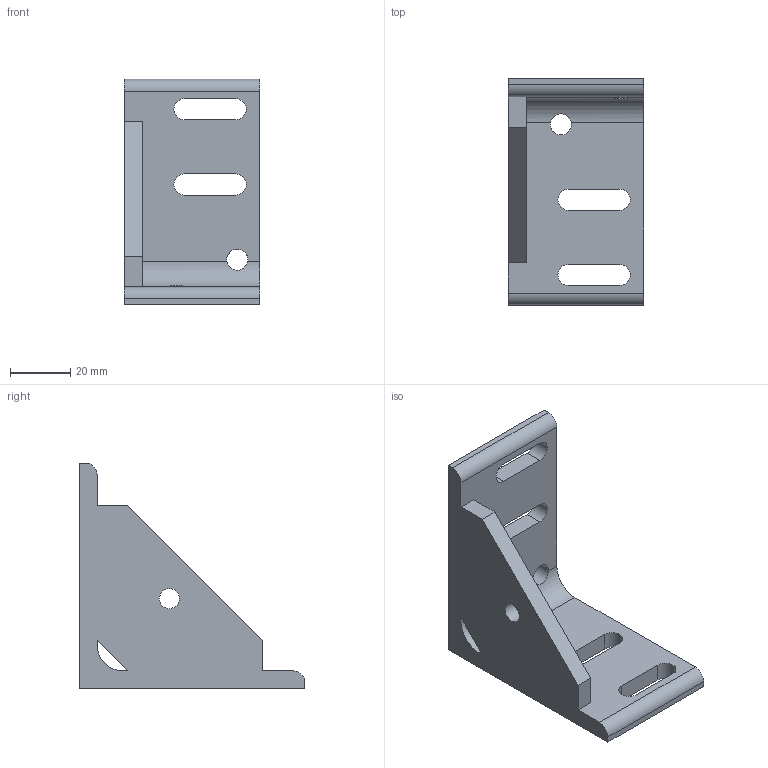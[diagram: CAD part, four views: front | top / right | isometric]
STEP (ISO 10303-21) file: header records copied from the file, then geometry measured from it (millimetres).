
FILE_DESCRIPTION(/* description */ ('Unknown'),/* implementation_level */ '2;1');
FILE_NAME(/* name */ 'TL4575',/* time_stamp */ '2026-09-29T14:15:31+08:00',/* author */ ('Unknown'),/* organization */ ('Unknown'),/* preprocessor_version */ 'ST-DEVELOPER v16.7',/* originating_system */ 'DEX',/* authorisation */ $);
FILE_SCHEMA (('AUTOMOTIVE_DESIGN {1 0 10303 214 3 1 1}'));
Length unit declared in the file: millimetre
Products named in the file (1): TL4575
Bounding box: 45 x 75 x 75 mm (x, y, z)
Volume: 46589.7 mm3; surface area: 19153 mm2
Topology: 1 solids, 1 shells, 35 faces, 109 edges, 73 vertices
Faces by surface type: plane 21, cylinder 14
Full cylindrical faces by diameter (mm): 6.647 x1, 7 x2
Entity records: 1486 total; most frequent: CARTESIAN_POINT 221, ORIENTED_EDGE 206, DIRECTION 201, EDGE_CURVE 103, LINE 73, VECTOR 73, VERTEX_POINT 70, AXIS2_PLACEMENT_3D 64
